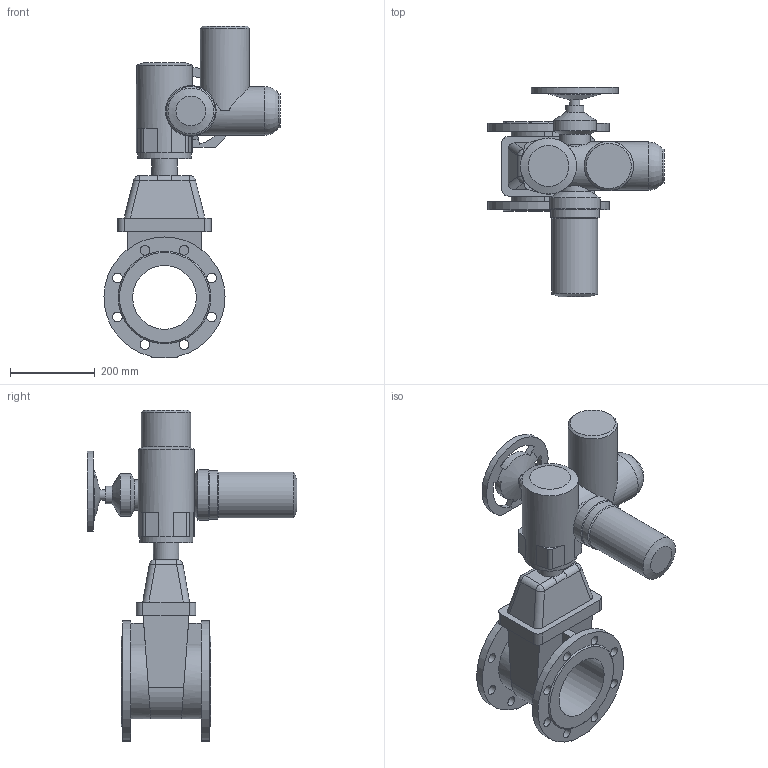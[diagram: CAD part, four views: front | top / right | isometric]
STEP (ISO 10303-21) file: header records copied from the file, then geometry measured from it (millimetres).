
FILE_DESCRIPTION(('STEP AP203'), '1');
FILE_NAME('青溻桄赅 47GVA DN150 PN10_PN16+MT903.A10', '', ('UNSPECIFIED'), ('UNSPECIFIED'), 'ASCON STEP Converter 1.6', 'ASCON Math Kernel', '');
FILE_SCHEMA(('CONFIG_CONTROL_DESIGN'));
Length unit declared in the file: millimetre
Bounding box: 414.47 x 494 x 781.5 mm (x, y, z)
Volume: 17123426.6 mm3; surface area: 1029308.4 mm2
Topology: 2 solids, 2 shells, 202 faces, 553 edges, 353 vertices
Faces by surface type: plane 97, cylinder 86, cone 11, bspline 7, torus 1
Full cylindrical faces by diameter (mm): 8.5 x4, 12 x4, 23 x16, 24 x2, 42 x1, 60 x1, 66 x1, 70 x2, 72 x1, 80 x1, 100 x1, 108 x1, 114 x1, 115 x1, 116 x1, 119 x1, 125 x1, 132 x1, 150 x1
Entity records: 10696 total; most frequent: CARTESIAN_POINT 4019, DIRECTION 1045, ORIENTED_EDGE 988, EDGE_CURVE 494, AXIS2_PLACEMENT_3D 411, VERTEX_POINT 353, EDGE_LOOP 309, FACE_BOUND 227
